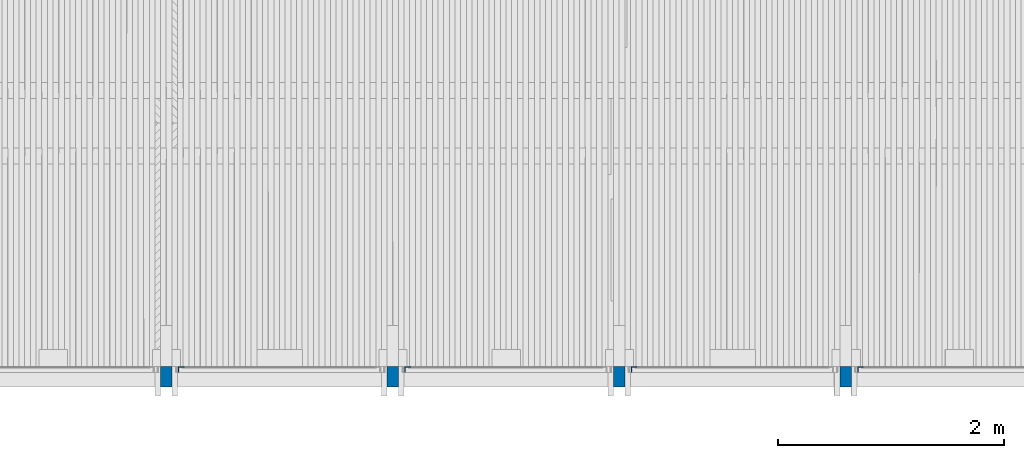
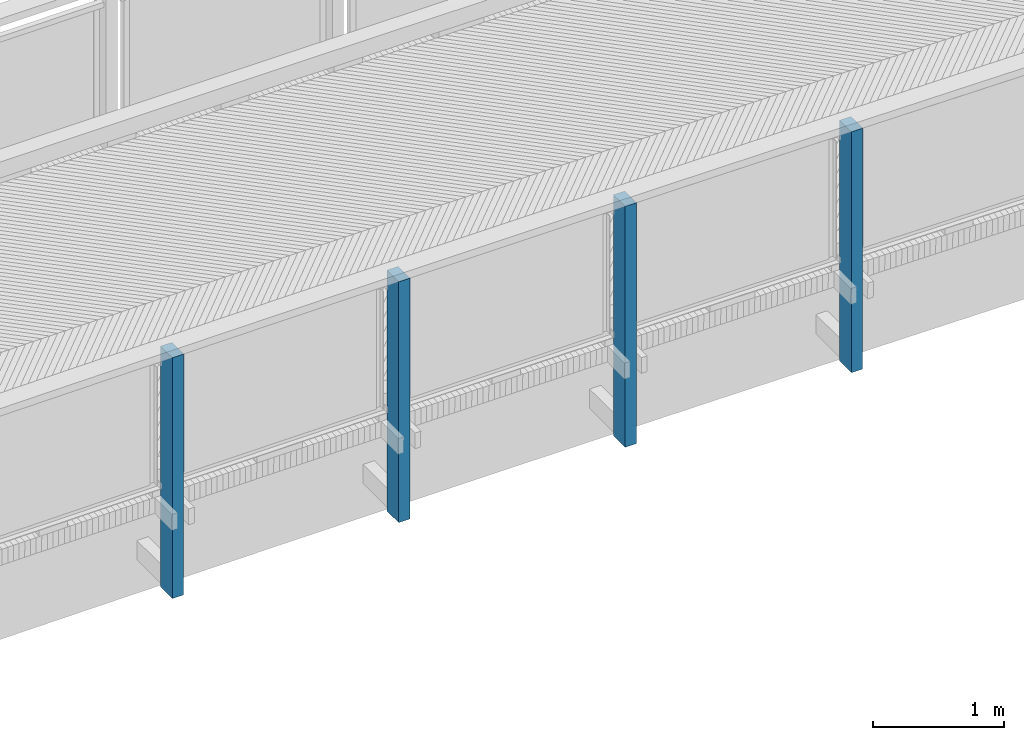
# One storey, part 8 of 65: 8 columns.
"""IFC2X3 building model written with IfcOpenShell, lengths in millimetres."""

from ifc_helpers import new_model, si_unit, frame, origin_with_axes, place, context, subcontext, project, spatial, faceted_brep, material, type_object, element, save


model = new_model("IFC2X3")

# Units and contexts
model_context = context("Model", 3, precision=1e-05, world=origin_with_axes())
body_context = subcontext(model_context, "Body", "Model", "MODEL_VIEW")
ifc_project = project(units=[si_unit("LENGTHUNIT", "METRE", prefix="MILLI"), si_unit("AREAUNIT", "SQUARE_METRE"), si_unit("VOLUMEUNIT", "CUBIC_METRE"), si_unit("MASSUNIT", "GRAM", prefix="KILO"), si_unit("TIMEUNIT", "SECOND"), si_unit("PLANEANGLEUNIT", "RADIAN"), si_unit("SOLIDANGLEUNIT", "STERADIAN"), si_unit("THERMODYNAMICTEMPERATUREUNIT", "DEGREE_CELSIUS"), si_unit("LUMINOUSINTENSITYUNIT", "LUMEN")], contexts=[model_context])

# Site, building, storey
site_placement = place(None, origin_with_axes())
site = spatial("IfcSite", under=ifc_project, at=site_placement, Name="Undefined", CompositionType="ELEMENT")
building_placement = place(site_placement, origin_with_axes())
building = spatial("IfcBuilding", under=site, at=building_placement, Name="Undefined", CompositionType="ELEMENT")
storey_placement = place(building_placement, origin_with_axes())
storey = spatial("IfcBuildingStorey", under=building, at=storey_placement, Name="Undefined", CompositionType="ELEMENT", Elevation=0.0)

# Columns
ifc_material_1 = material(Name="TIMBER/Timber_Undefined")
column_type_1 = type_object("IfcColumnType", Name="180*100", PredefinedType="NOTDEFINED")
for number, where, z_axis, x_axis in (
    (1, (10000.0000678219, 20125.0120919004, 2309.97693042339), (0.0, 1.0, 0.0), (0.0, 0.0, 1.0)),
    (2, (8000.00006782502, 20125.0120919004, 2313.29124390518), (0.0, 1.0, 0.0), (0.0, 0.0, 1.0)),
    (3, (6000.00006782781, 20125.0120919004, 2309.97693031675), (0.0, 1.0, 0.0), (0.0, 0.0, 1.0)),
    (4, (4000.00006783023, 20125.0120919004, 2300.03388043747), (0.0, 1.0, 0.0), (0.0, 0.0, 1.0)),
):
    element("IfcColumn", number, at=place(storey_placement, frame(where, z_axis=z_axis, x_axis=x_axis)), inside=storey, type_object=column_type_1, material=ifc_material_1, Name="KAIDEPYLVÄS", ObjectType="180*100", context=body_context, shape_type="Brep", body=[
        faceted_brep([(0.0, 50.0, -90.0), (0.0, 50.0, 90.0), (2250.0, 50.0, 90.0), (2250.0, 50.0, -90.0), (0.0, -50.0, 90.0), (2250.0, -50.0, 90.0), (0.0, -50.0, -90.0), (2250.0, -50.0, -90.0)], [[[0, 1, 2, 3]], [[1, 4, 5, 2]], [[4, 6, 7, 5]], [[6, 0, 3, 7]], [[5, 7, 3, 2]], [[6, 4, 1, 0]]]),
    ])
ifc_material_2 = material(Name="STEEL/S235JR")
column_type_2 = type_object("IfcColumnType", Name="L50*5", PredefinedType="NOTDEFINED")
column_1_placement = place(storey_placement, frame((10132.4988327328, 20190.01, 3312.55876127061), z_axis=(0.0, -1.0, 0.0), x_axis=(0.0, 0.0, 1.0)))
element("IfcColumn", 5, at=column_1_placement, inside=storey, type_object=column_type_2, material=ifc_material_2, Name="BEAM", ObjectType="L50*5", context=body_context, shape_type="Brep", body=[
    faceted_brep([(0.0, 25.0, -25.0), (0.0, 25.0, 25.0), (1099.9997751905, 25.0, 25.0), (1099.9997751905, 25.0, -25.0), (0.0, 20.0, 25.0), (1099.9997751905, 20.0, 25.0), (0.0, 20.0, -20.0), (1099.9997751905, 20.0, -20.0), (0.0, -25.0, -20.0), (1099.9997751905, -25.0, -20.0), (0.0, -25.0, -25.0), (1099.9997751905, -25.0, -25.0)], [[[0, 1, 2, 3]], [[1, 4, 5, 2]], [[4, 6, 7, 5]], [[6, 8, 9, 7]], [[8, 10, 11, 9]], [[10, 0, 3, 11]], [[5, 7, 9, 11, 3, 2]], [[10, 8, 6, 4, 1, 0]]]),
])
for number, where, z_axis, x_axis, name in (
    (6, (8132.49883273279, 20190.01, 3316.23160880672), (0.0, -1.0, 0.0), (0.0, 0.0, 1.0), "BEAM"),
    (7, (6132.49883273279, 20190.01, 3313.27138092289), (0.0, -1.0, 0.0), (0.0, 0.0, 1.0), "BEAM"),
):
    element("IfcColumn", number, at=place(storey_placement, frame(where, z_axis=z_axis, x_axis=x_axis)), inside=storey, type_object=column_type_2, material=ifc_material_2, Name=name, ObjectType="L50*5", context=body_context, shape_type="Brep", body=[
        faceted_brep([(0.0, 25.0, -25.0), (0.0, 25.0, 25.0), (1100.00065383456, 25.0, 25.0), (1100.00065383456, 25.0, -25.0), (0.0, 20.0, 25.0), (1100.00065383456, 20.0, 25.0), (0.0, 20.0, -20.0), (1100.00065383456, 20.0, -20.0), (0.0, -25.0, -20.0), (1100.00065383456, -25.0, -20.0), (0.0, -25.0, -25.0), (1100.00065383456, -25.0, -25.0)], [[[0, 1, 2, 3]], [[1, 4, 5, 2]], [[4, 6, 7, 5]], [[6, 8, 9, 7]], [[8, 10, 11, 9]], [[10, 0, 3, 11]], [[5, 7, 9, 11, 3, 2]], [[10, 8, 6, 4, 1, 0]]]),
    ])
column_2_placement = place(storey_placement, frame((4132.49883273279, 20190.01, 3303.68520818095), z_axis=(0.0, -1.0, 0.0), x_axis=(0.0, 0.0, 1.0)))
element("IfcColumn", 8, at=column_2_placement, inside=storey, type_object=column_type_2, material=ifc_material_2, Name="BEAM", ObjectType="L50*5", context=body_context, shape_type="Brep", body=[
    faceted_brep([(0.0, 25.0, -25.0), (0.0, 25.0, 25.0), (1099.9997751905, 25.0, 25.0), (1099.9997751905, 25.0, -25.0), (0.0, 20.0, 25.0), (1099.9997751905, 20.0, 25.0), (0.0, 20.0, -20.0), (1099.9997751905, 20.0, -20.0), (0.0, -25.0, -20.0), (1099.9997751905, -25.0, -20.0), (0.0, -25.0, -25.0), (1099.9997751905, -25.0, -25.0)], [[[0, 1, 2, 3]], [[1, 4, 5, 2]], [[4, 6, 7, 5]], [[6, 8, 9, 7]], [[8, 10, 11, 9]], [[10, 0, 3, 11]], [[5, 7, 9, 11, 3, 2]], [[10, 8, 6, 4, 1, 0]]]),
])

save(model, "model.ifc")
